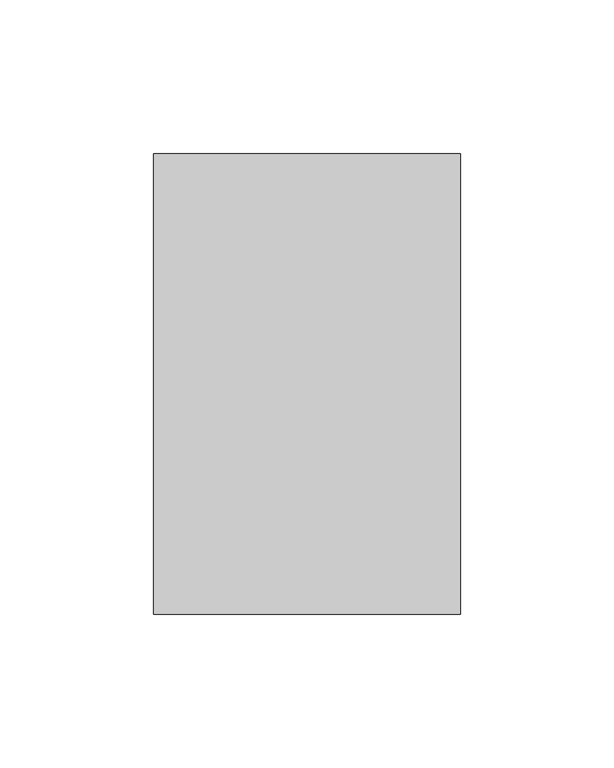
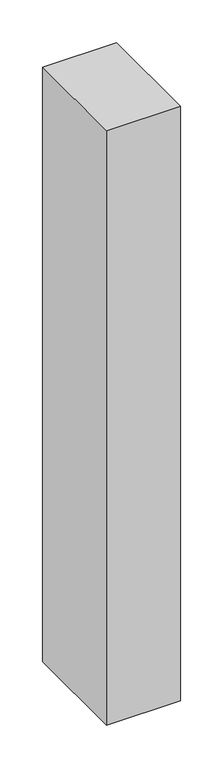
"""IFC4 building model written with IfcOpenShell, lengths in millimetres: member geometry, 矩形竖梃 : 教学楼 – 矩形竖梃 – 100x150mm."""

from ifc_helpers import new_model, si_unit, frame, origin, place, context, project, spatial, polyline, outline, extrude, source, transform, mapped, element, save


def member_6c42befd(model_context):
    return source(origin(), model_context, "Body", "SweptSolid", [
        extrude(outline(polyline([(0.0, 75.0), (0.0, -75.0), (-100.0, -75.0), (-100.0, 75.0), (0.0, 75.0)])), frame((0.0, 0.0, -850.0), z_axis=(0.0, 0.0, 1.0), x_axis=(1.0, 0.0, 0.0)), (0.0, 0.0, 1.0), 850.0),
    ])


if __name__ == "__main__":
    model = new_model("IFC4")
    model_context = context("Model", 3, world=origin())
    ifc_project = project(units=[si_unit("LENGTHUNIT", "METRE", prefix="MILLI")], contexts=[model_context])
    site = spatial("IfcSite", under=ifc_project)
    building = spatial("IfcBuilding", under=site)
    placement = place(None, origin())
    member_shape = member_6c42befd(model_context)
    element("IfcMember", 1, ObjectType="矩形竖梃 : 教学楼 – 矩形竖梃 – 100x150mm", at=placement, inside=building, context=model_context, shape_type="MappedRepresentation", body=[
        mapped(member_shape, transform((0.0, 0.0, 0.0), x_axis=(1.0, 0.0, 0.0), y_axis=(0.0, 1.0, 0.0), z_axis=(0.0, 0.0, 1.0))),
    ])
    save(model, "model.ifc")
